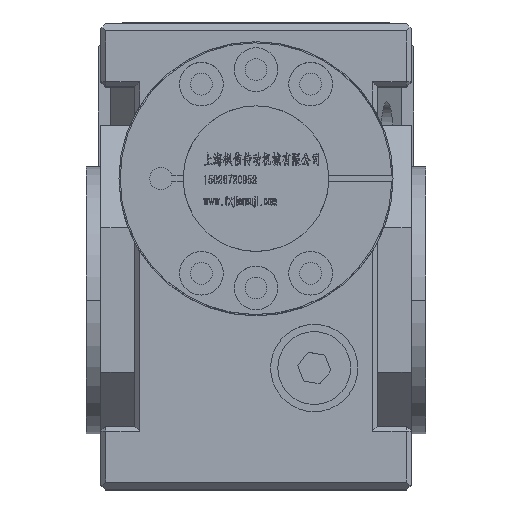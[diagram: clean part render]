
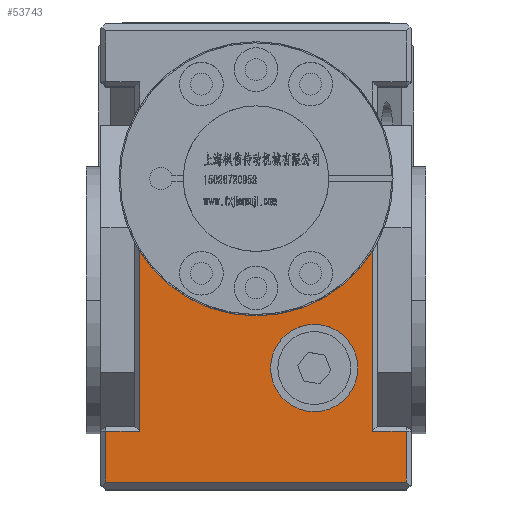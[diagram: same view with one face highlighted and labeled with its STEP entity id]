
A CAD part, top view. The second image highlights one B-rep face of the part: STEP entity #53743.
In plain terms, the highlighted planar face has unit normal (0, 0, 1).
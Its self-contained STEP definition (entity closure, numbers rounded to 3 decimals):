
#467 = EDGE_CURVE ( 'NONE', #82384, #5123, #14084, .T. ) ;
#787 = CARTESIAN_POINT ( 'NONE',  ( 24., 10.098, 40. ) ) ;
#1307 = ORIENTED_EDGE ( 'NONE', *, *, #68427, .T. ) ;
#2477 = CARTESIAN_POINT ( 'NONE',  ( 24., 11.845, 40. ) ) ;
#2680 = ORIENTED_EDGE ( 'NONE', *, *, #24054, .T. ) ;
#3195 = AXIS2_PLACEMENT_3D ( 'NONE', #18980, #23450, #81435 ) ;
#3320 = EDGE_CURVE ( 'NONE', #10267, #87039, #81771, .T. ) ;
#4082 = VERTEX_POINT ( 'NONE', #66158 ) ;
#5123 = VERTEX_POINT ( 'NONE', #69952 ) ;
#5658 = VECTOR ( 'NONE', #24366, 1000. ) ;
#7733 = EDGE_LOOP ( 'NONE', ( #95137, #47434 ) ) ;
#8950 = VERTEX_POINT ( 'NONE', #73346 ) ;
#10255 = DIRECTION ( 'NONE',  ( 0., 0., 1. ) ) ;
#10267 = VERTEX_POINT ( 'NONE', #43757 ) ;
#12404 = ORIENTED_EDGE ( 'NONE', *, *, #29304, .T. ) ;
#13140 = CARTESIAN_POINT ( 'NONE',  ( -31., 57., 40. ) ) ;
#14084 = CIRCLE ( 'NONE', #52040, 9. ) ;
#15115 = ORIENTED_EDGE ( 'NONE', *, *, #93610, .F. ) ;
#15212 = AXIS2_PLACEMENT_3D ( 'NONE', #77655, #79738, #96359 ) ;
#16690 = EDGE_CURVE ( 'NONE', #87039, #51083, #20751, .T. ) ;
#18980 = CARTESIAN_POINT ( 'NONE',  ( 32., 57., 40. ) ) ;
#20751 = LINE ( 'NONE', #79242, #30895 ) ;
#22123 = VECTOR ( 'NONE', #64031, 1000. ) ;
#23200 = DIRECTION ( 'NONE',  ( 1., 0., 0. ) ) ;
#23450 = DIRECTION ( 'NONE',  ( 0., 0., -1. ) ) ;
#23527 = EDGE_CURVE ( 'NONE', #5123, #82384, #25506, .T. ) ;
#24054 = EDGE_CURVE ( 'NONE', #34802, #8950, #72114, .T. ) ;
#24366 = DIRECTION ( 'NONE',  ( -1., 0., 0. ) ) ;
#25506 = CIRCLE ( 'NONE', #15212, 9. ) ;
#25764 = CARTESIAN_POINT ( 'NONE',  ( -24., 10.098, 40. ) ) ;
#26496 = CARTESIAN_POINT ( 'NONE',  ( 31., -37.5, 40. ) ) ;
#28217 = ORIENTED_EDGE ( 'NONE', *, *, #3320, .T. ) ;
#29304 = EDGE_CURVE ( 'NONE', #51083, #4082, #58699, .T. ) ;
#30596 = ORIENTED_EDGE ( 'NONE', *, *, #99519, .T. ) ;
#30895 = VECTOR ( 'NONE', #53481, 1000. ) ;
#32934 = DIRECTION ( 'NONE',  ( 1., 0., 0. ) ) ;
#32997 = AXIS2_PLACEMENT_3D ( 'NONE', #83816, #10255, #34968 ) ;
#34802 = VERTEX_POINT ( 'NONE', #25764 ) ;
#34968 = DIRECTION ( 'NONE',  ( 0., 1., 0. ) ) ;
#37868 = DIRECTION ( 'NONE',  ( 0., -1., 0. ) ) ;
#38678 = CARTESIAN_POINT ( 'NONE',  ( -32., -27., 40. ) ) ;
#38706 = EDGE_LOOP ( 'NONE', ( #84840, #28217, #45740, #12404, #30596, #15115, #2680, #1307 ) ) ;
#39590 = FACE_BOUND ( 'NONE', #7733, .T. ) ;
#43757 = CARTESIAN_POINT ( 'NONE',  ( -31., -37.5, 40. ) ) ;
#45740 = ORIENTED_EDGE ( 'NONE', *, *, #16690, .T. ) ;
#47434 = ORIENTED_EDGE ( 'NONE', *, *, #467, .F. ) ;
#49611 = EDGE_CURVE ( 'NONE', #93118, #10267, #95274, .T. ) ;
#50585 = VECTOR ( 'NONE', #59910, 1000. ) ;
#51083 = VERTEX_POINT ( 'NONE', #59388 ) ;
#52040 = AXIS2_PLACEMENT_3D ( 'NONE', #72099, #55928, #23200 ) ;
#52370 = CARTESIAN_POINT ( 'NONE',  ( -31., -27., 40. ) ) ;
#53481 = DIRECTION ( 'NONE',  ( 0., 1., 0. ) ) ;
#53743 = ADVANCED_FACE ( 'NONE', ( #73944, #39590 ), #90519, .F. ) ;
#55296 = LINE ( 'NONE', #38678, #78970 ) ;
#55928 = DIRECTION ( 'NONE',  ( 0., 0., 1. ) ) ;
#55946 = CARTESIAN_POINT ( 'NONE',  ( -24., -26., 40. ) ) ;
#58158 = CARTESIAN_POINT ( 'NONE',  ( 32., -27., 40. ) ) ;
#58699 = LINE ( 'NONE', #58158, #5658 ) ;
#59388 = CARTESIAN_POINT ( 'NONE',  ( 31., -27., 40. ) ) ;
#59910 = DIRECTION ( 'NONE',  ( 0., 1., 0. ) ) ;
#60289 = VECTOR ( 'NONE', #32934, 1000. ) ;
#63906 = DIRECTION ( 'NONE',  ( -1., 0., 0. ) ) ;
#64031 = DIRECTION ( 'NONE',  ( 0., -1., 0. ) ) ;
#66158 = CARTESIAN_POINT ( 'NONE',  ( 24., -27., 40. ) ) ;
#68427 = EDGE_CURVE ( 'NONE', #8950, #93118, #55296, .T. ) ;
#69952 = CARTESIAN_POINT ( 'NONE',  ( 21., -14., 40. ) ) ;
#70792 = CIRCLE ( 'NONE', #32997, 28.25 ) ;
#72099 = CARTESIAN_POINT ( 'NONE',  ( 12., -14., 40. ) ) ;
#72114 = LINE ( 'NONE', #55946, #22123 ) ;
#73346 = CARTESIAN_POINT ( 'NONE',  ( -24., -27., 40. ) ) ;
#73944 = FACE_OUTER_BOUND ( 'NONE', #38706, .T. ) ;
#77655 = CARTESIAN_POINT ( 'NONE',  ( 12., -14., 40. ) ) ;
#78970 = VECTOR ( 'NONE', #63906, 1000. ) ;
#79242 = CARTESIAN_POINT ( 'NONE',  ( 31., -26., 40. ) ) ;
#79738 = DIRECTION ( 'NONE',  ( 0., 0., 1. ) ) ;
#81435 = DIRECTION ( 'NONE',  ( -1., 0., 0. ) ) ;
#81771 = LINE ( 'NONE', #90873, #60289 ) ;
#82384 = VERTEX_POINT ( 'NONE', #98609 ) ;
#82991 = VECTOR ( 'NONE', #37868, 1000. ) ;
#83816 = CARTESIAN_POINT ( 'NONE',  ( 0., 25., 40. ) ) ;
#84840 = ORIENTED_EDGE ( 'NONE', *, *, #49611, .T. ) ;
#87039 = VERTEX_POINT ( 'NONE', #26496 ) ;
#90519 = PLANE ( 'NONE',  #3195 ) ;
#90873 = CARTESIAN_POINT ( 'NONE',  ( 32., -37.5, 40. ) ) ;
#93118 = VERTEX_POINT ( 'NONE', #52370 ) ;
#93190 = LINE ( 'NONE', #2477, #50585 ) ;
#93610 = EDGE_CURVE ( 'NONE', #34802, #97148, #70792, .T. ) ;
#95137 = ORIENTED_EDGE ( 'NONE', *, *, #23527, .F. ) ;
#95274 = LINE ( 'NONE', #13140, #82991 ) ;
#96359 = DIRECTION ( 'NONE',  ( 1., 0., 0. ) ) ;
#97148 = VERTEX_POINT ( 'NONE', #787 ) ;
#98609 = CARTESIAN_POINT ( 'NONE',  ( 3., -14., 40. ) ) ;
#99519 = EDGE_CURVE ( 'NONE', #4082, #97148, #93190, .T. ) ;
